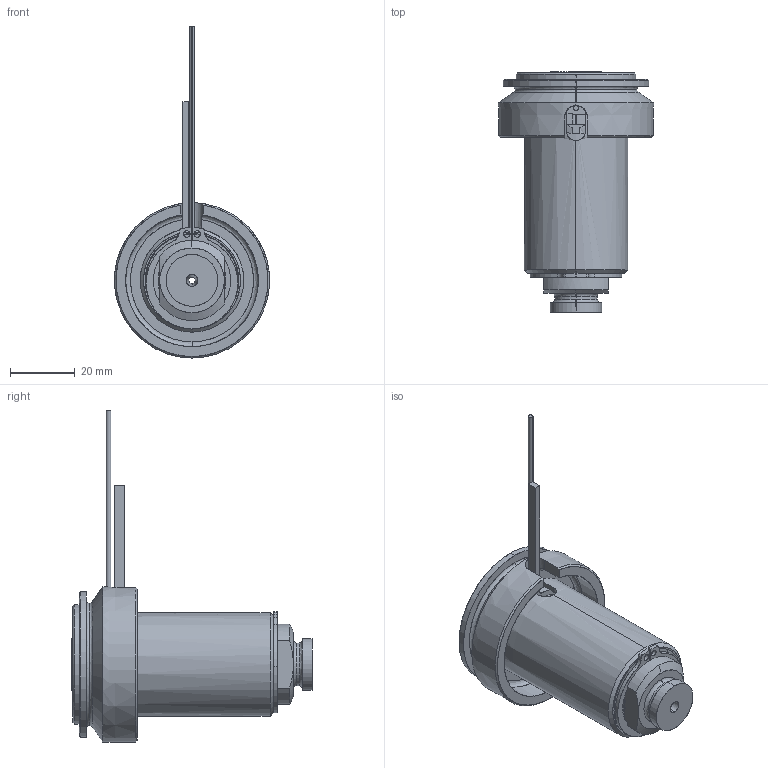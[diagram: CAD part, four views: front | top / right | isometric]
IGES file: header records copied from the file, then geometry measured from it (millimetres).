
Start section: SolidWorks IGES file using analytic representation for surfaces
Global section: file name: C:\Documents and Settings\ws-20\Desktop\TEMPORANEA\UGBE5001-M-A-5 [Ød-2.0 P-0 ØC-13].IGS; native system: SolidWorks 2012; preprocessor: SolidWorks 2012; author: ws-20; date: 120306.161319; units: millimetre
Bounding box: 48 x 74.25 x 102.65 mm (x, y, z)
Surface area: 29549.5 mm2 (no closed solid volume)
Topology: 0 solids, 0 shells, 109 faces, 2100 edges, 2100 vertices
Faces by surface type: revolution 61, bspline 48
